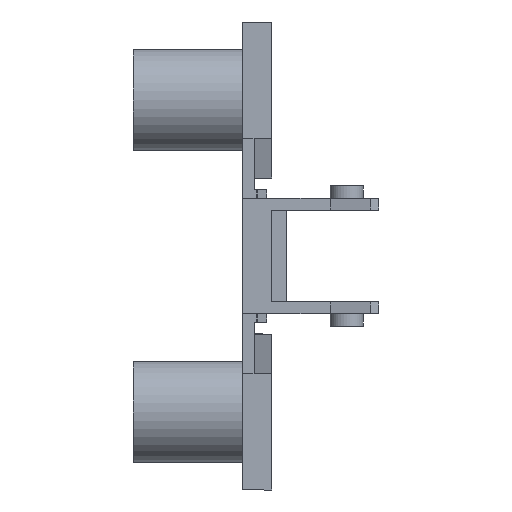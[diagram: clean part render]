
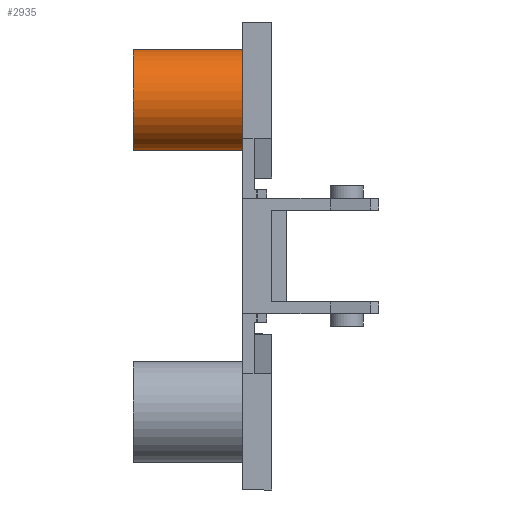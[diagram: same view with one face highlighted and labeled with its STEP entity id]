
A CAD part, front view. The second image highlights one B-rep face of the part: STEP entity #2935.
In plain terms, the highlighted cylindrical face has radius 5.2 mm (diameter 10.4 mm), a partial arc.
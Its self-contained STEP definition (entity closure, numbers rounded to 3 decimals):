
#225 = EDGE_CURVE ( 'NONE', #2154, #2155, #1451, .T. ) ;
#229 = EDGE_CURVE ( 'NONE', #2154, #2153, #1459, .T. ) ;
#245 = EDGE_CURVE ( 'NONE', #2153, #2149, #1469, .T. ) ;
#260 = AXIS2_PLACEMENT_3D ( 'NONE', #2436, #2437, #2438 ) ;
#376 = AXIS2_PLACEMENT_3D ( 'NONE', #3627, #3626, #3625 ) ;
#602 = AXIS2_PLACEMENT_3D ( 'NONE', #3086, #3087, #3088 ) ;
#628 = EDGE_CURVE ( 'NONE', #2155, #2149, #1940, .T. ) ;
#806 = ORIENTED_EDGE ( 'NONE', *, *, #245, .F. ) ;
#807 = ORIENTED_EDGE ( 'NONE', *, *, #229, .F. ) ;
#808 = ORIENTED_EDGE ( 'NONE', *, *, #225, .T. ) ;
#809 = ORIENTED_EDGE ( 'NONE', *, *, #628, .T. ) ;
#1106 = EDGE_LOOP ( 'NONE', ( #806, #807, #808, #809 ) ) ;
#1451 = LINE ( 'NONE', #2429, #1452 ) ;
#1452 = VECTOR ( 'NONE', #2430, 1000. ) ;
#1459 = CIRCLE ( 'NONE', #260, 5.2 ) ;
#1469 = LINE ( 'NONE', #2453, #1474 ) ;
#1474 = VECTOR ( 'NONE', #2456, 1000. ) ;
#1940 = CIRCLE ( 'NONE', #602, 5.2 ) ;
#2071 = CYLINDRICAL_SURFACE ( 'NONE', #376, 5.2 ) ;
#2076 = FACE_OUTER_BOUND ( 'NONE', #1106, .T. ) ;
#2149 = VERTEX_POINT ( 'NONE', #3137 ) ;
#2153 = VERTEX_POINT ( 'NONE', #3140 ) ;
#2154 = VERTEX_POINT ( 'NONE', #3141 ) ;
#2155 = VERTEX_POINT ( 'NONE', #3142 ) ;
#2429 = CARTESIAN_POINT ( 'NONE',  ( -11.2, 0., 10.8 ) ) ;
#2430 = DIRECTION ( 'NONE',  ( 1., 0., 0. ) ) ;
#2436 = CARTESIAN_POINT ( 'NONE',  ( -11.2, 0., 16. ) ) ;
#2437 = DIRECTION ( 'NONE',  ( -1., 0., 0. ) ) ;
#2438 = DIRECTION ( 'NONE',  ( 0., 0., 1. ) ) ;
#2453 = CARTESIAN_POINT ( 'NONE',  ( -11.2, 0., 21.2 ) ) ;
#2456 = DIRECTION ( 'NONE',  ( 1., 0., 0. ) ) ;
#2935 = ADVANCED_FACE ( 'NONE', ( #2076 ), #2071, .T. ) ;
#3086 = CARTESIAN_POINT ( 'NONE',  ( 0., 0., 16. ) ) ;
#3087 = DIRECTION ( 'NONE',  ( -1., 0., 0. ) ) ;
#3088 = DIRECTION ( 'NONE',  ( 0., 0., -1. ) ) ;
#3137 = CARTESIAN_POINT ( 'NONE',  ( 0., 0., 21.2 ) ) ;
#3140 = CARTESIAN_POINT ( 'NONE',  ( -11.2, 0., 21.2 ) ) ;
#3141 = CARTESIAN_POINT ( 'NONE',  ( -11.2, 0., 10.8 ) ) ;
#3142 = CARTESIAN_POINT ( 'NONE',  ( 0., 0., 10.8 ) ) ;
#3625 = DIRECTION ( 'NONE',  ( 0., 0., -1. ) ) ;
#3626 = DIRECTION ( 'NONE',  ( 1., 0., 0. ) ) ;
#3627 = CARTESIAN_POINT ( 'NONE',  ( -11.2, 0., 16. ) ) ;
